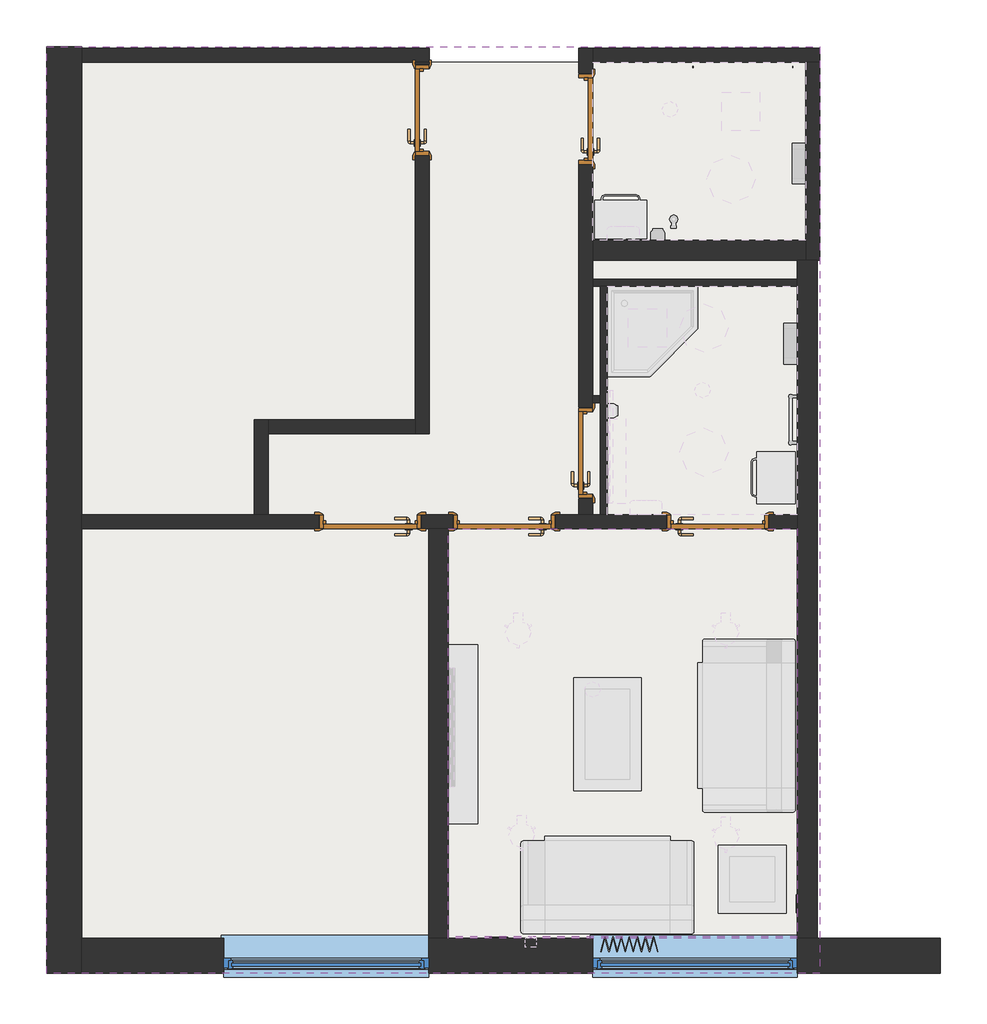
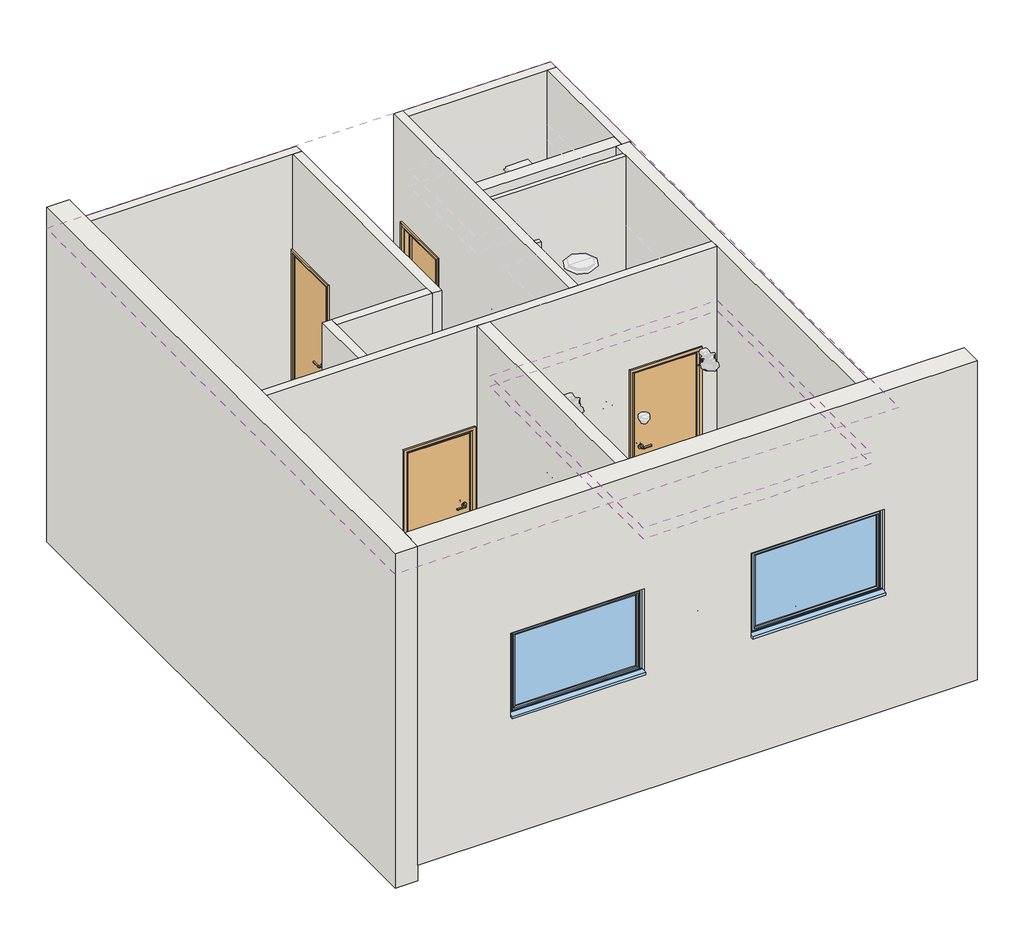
# One storey, part 1 of 2: 18 walls, 6 doors, 3 coverings, 3 slabs, 2 windows.
"""IFC4 building model written with IfcOpenShell, lengths in millimetres."""

from ifc_helpers import new_model, si_unit, frame, origin, origin_with_axes, place, context, project, spatial, polyline, circle_curve, outline, extrude, faceted_brep, transform, mapped, element, save
from ifc_brep_helpers import plane_surface, revolved_surface, advanced_brep
from components import doors_intsgl_810x2040mm_f9adfaf9, doors_intsgl_810x2110mm_60c2a13c, doors_intsgl_910x2040mm_be83dfe3, doors_intsgl_910x2110mm_76b165e6, windows_sgl_plain_1810x1210mm_b7899545

model = new_model("IFC4")

# Units and contexts
model_context = context("Model", 3, world=origin())
ifc_project = project(units=[si_unit("LENGTHUNIT", "METRE", prefix="MILLI")], contexts=[model_context])

# Site, building, storey
site = spatial("IfcSite", under=ifc_project)
building = spatial("IfcBuilding", under=site)
storey = spatial("IfcBuildingStorey", under=building, Name="2-Proposed Alterations Plan", Elevation=0.0)

# Coverings
placement = place(None, origin())
element("IfcCovering", 1, ObjectType="BH-Joisted P'board ceiling", at=placement, inside=storey, context=model_context, shape_type="SweptSolid", body=[
    extrude(outline(polyline([(9453.7880799, 12165.3737232), (9453.7880799, 3967.3736929), (2612.2880548, 3967.3736929), (2612.2880548, 12165.3737232), (9453.7880799, 12165.3737232)])), frame((0.0, 0.0, 3500.0), z_axis=(0.0, 0.0, 1.0), x_axis=(1.0, 0.0, 0.0)), (0.0, 0.0, 1.0), 212.0),
])
element("IfcCovering", 2, ObjectType="Asbestos Ceiling Tiles", at=placement, inside=storey, context=model_context, shape_type="SweptSolid", body=[
    extrude(outline(polyline([(9255.7880797, 10274.8737165), (9255.7880797, 8024.8737074), (7443.6565765, 8024.8737074), (7443.6565765, 10274.8737165), (9255.7880797, 10274.8737165)])), frame((0.0, 0.0, 2727.0), z_axis=(0.0, 0.0, 1.0), x_axis=(1.0, 0.0, 0.0)), (0.0, 0.0, 1.0), 57.0),
    extrude(outline(polyline([(9255.7880797, 7899.8737074), (9255.7880797, 4288.6237002), (6166.7880673, 4288.6237002), (6166.7880673, 7899.8737074), (9255.7880797, 7899.8737074)])), frame((0.0, 0.0, 2727.0), z_axis=(0.0, 0.0, 1.0), x_axis=(1.0, 0.0, 0.0)), (0.0, 0.0, 1.0), 57.0),
])
element("IfcCovering", 3, ObjectType="600x600mm_Grid", at=placement, inside=storey, context=model_context, shape_type="AdvancedBrep", body=[
    advanced_brep(
    [(9255.7880797, 7899.8737074, 2627.0), (6166.7880673, 7899.8737074, 2627.0), (6166.7880673, 4277.3736929, 2627.0), (9255.7880797, 4277.3736929, 2627.0), (6166.7880673, 7899.8737074, 2575.0), (9255.7880797, 7899.8737074, 2575.0), (9255.7880797, 4277.3736929, 2575.0), (6166.7880673, 4277.3736929, 2575.0), (6806.2919268, 7565.7199628, 2575.0), (6764.2919268, 7565.7199628, 2575.0), (7402.1417736, 5169.8134327, 2575.0), (7360.1417736, 5169.8134327, 2575.0), (6764.2919268, 7565.7199628, 2611.0), (6806.2919268, 7565.7199628, 2611.0), (7360.1417736, 5169.8134327, 2611.0), (7402.1417736, 5169.8134327, 2611.0)],
    [
        (0, 1),
        (1, 2),
        (2, 3),
        (3, 0),
        (4, 5),
        (5, 6),
        (6, 7),
        (7, 4),
        (8, 9, circle_curve(frame((6785.2919268, 7565.7199628, 2575.0), z_axis=(0.0, 0.0, 1.0), x_axis=(1.0, 0.0, 0.0)), 21.0)),
        (9, 8, circle_curve(frame((6785.2919268, 7565.7199628, 2575.0), z_axis=(0.0, 0.0, 1.0), x_axis=(1.0, 0.0, 0.0)), 21.0)),
        (10, 11, circle_curve(frame((7381.1417736, 5169.8134327, 2575.0), z_axis=(0.0, 0.0, 1.0), x_axis=(1.0, 0.0, 0.0)), 21.0)),
        (11, 10, circle_curve(frame((7381.1417736, 5169.8134327, 2575.0), z_axis=(0.0, 0.0, 1.0), x_axis=(1.0, 0.0, 0.0)), 21.0)),
        (0, 5),
        (4, 1),
        (7, 2),
        (6, 3),
        (12, 13, circle_curve(frame((6785.2919268, 7565.7199628, 2611.0), z_axis=(0.0, 0.0, -1.0), x_axis=(1.0, 0.0, 0.0)), 21.0)),
        (13, 12, circle_curve(frame((6785.2919268, 7565.7199628, 2611.0), z_axis=(0.0, 0.0, -1.0), x_axis=(1.0, 0.0, 0.0)), 21.0)),
        (12, 9),
        (8, 13),
        (14, 15, circle_curve(frame((7381.1417736, 5169.8134327, 2611.0), z_axis=(0.0, 0.0, -1.0), x_axis=(1.0, 0.0, 0.0)), 21.0)),
        (15, 14, circle_curve(frame((7381.1417736, 5169.8134327, 2611.0), z_axis=(0.0, 0.0, -1.0), x_axis=(1.0, 0.0, 0.0)), 21.0)),
        (14, 11),
        (10, 15),
    ],
    [
        plane_surface(frame((9343.2880797, 7899.8737074, 2627.0), z_axis=(0.0, 0.0, 1.0), x_axis=(-1.0, 0.0, 0.0))),
        plane_surface(frame((9343.2880797, 7899.8737074, 2575.0), z_axis=(0.0, 0.0, -1.0), x_axis=(1.0, 0.0, 0.0))),
        plane_surface(frame((9255.7880797, 7899.8737074, 2627.0), z_axis=(0.0, 1.0, 0.0), x_axis=(0.0, 0.0, -1.0))),
        plane_surface(frame((6166.7880673, 7899.8737074, 2627.0), z_axis=(-1.0, 0.0, 0.0), x_axis=(0.0, 0.0, -1.0))),
        plane_surface(frame((6166.7880673, 4277.3736929, 2627.0), z_axis=(0.0, -1.0, 0.0), x_axis=(0.0, 0.0, -1.0))),
        plane_surface(frame((9255.7880797, 4277.3736929, 2627.0), z_axis=(1.0, 0.0, 0.0), x_axis=(0.0, 0.0, -1.0))),
        plane_surface(frame((6806.2919268, 7565.7199628, 2611.0), z_axis=(0.0, 0.0, -1.0), x_axis=(0.0, 1.0, 0.0))),
        revolved_surface(polyline([(6806.2919268, 7565.7199628, 2575.0), (6806.2919268, 7565.7199628, 2611.0)]), (6785.2919268, 7565.7199628, 2611.0), (0.0, 0.0, -1.0)),
        plane_surface(frame((7402.1417736, 5169.8134327, 2611.0), z_axis=(0.0, 0.0, -1.0), x_axis=(0.0, 1.0, 0.0))),
        revolved_surface(polyline([(7402.1417736, 5169.8134327, 2575.0), (7402.1417736, 5169.8134327, 2611.0)]), (7381.1417736, 5169.8134327, 2611.0), (0.0, 0.0, -1.0)),
    ],
    [
        (0, [[1, 2, 3, 4]]),
        (1, [[5, 6, 7, 8], [9, 10], [11, 12]]),
        (2, [[-1, 13, -5, 14]]),
        (3, [[-2, -14, -8, 15]]),
        (4, [[-3, -15, -7, 16]]),
        (5, [[-4, -16, -6, -13]]),
        (6, [[17, 18]]),
        (7, [[-17, 19, -9, 20]]),
        (7, [[-18, -20, -10, -19]]),
        (8, [[21, 22]]),
        (9, [[-21, 23, -11, 24]]),
        (9, [[-22, -24, -12, -23]]),
    ],
),
])

# Doors
doors_intsgl_810x2040mm_shape = doors_intsgl_810x2040mm_f9adfaf9(model_context)
element("IfcDoor", 4, ObjectType="Doors_IntSgl : 810x2040mm", at=placement, inside=storey, context=model_context, shape_type="MappedRepresentation", body=[
    mapped(doors_intsgl_810x2040mm_shape, transform((7381.1565765, 11522.8737231, 0.0), x_axis=(0.0, 1.0, 0.0), y_axis=(-1.0, 0.0, 0.0), z_axis=(0.0, 0.0, 1.0))),
])
doors_intsgl_810x2110mm_shape = doors_intsgl_810x2110mm_60c2a13c(model_context)
element("IfcDoor", 5, ObjectType="Doors_IntSgl : 810x2110mm", at=placement, inside=storey, context=model_context, shape_type="MappedRepresentation", body=[
    mapped(doors_intsgl_810x2110mm_shape, transform((5935.3080668, 11602.8737231, 0.0), x_axis=(0.0, 1.0, 0.0), y_axis=(-1.0, 0.0, 0.0), z_axis=(0.0, 0.0, 1.0))),
])
element("IfcDoor", 6, ObjectType="Doors_IntSgl : 810x2110mm", at=placement, inside=storey, context=model_context, shape_type="MappedRepresentation", body=[
    mapped(doors_intsgl_810x2110mm_shape, transform((7381.1565765, 8569.8737074, 0.0), x_axis=(0.0, 1.0, 0.0), y_axis=(-1.0, 0.0, 0.0), z_axis=(0.0, 0.0, 1.0))),
])
doors_intsgl_910x2040mm_shape = doors_intsgl_910x2040mm_be83dfe3(model_context)
element("IfcDoor", 7, ObjectType="Doors_IntSgl : 910x2040mm", at=placement, inside=storey, context=model_context, shape_type="MappedRepresentation", body=[
    mapped(doors_intsgl_910x2040mm_shape, transform((6661.7880673, 7962.3737074, 0.0), x_axis=(-1.0, 0.0, 0.0), y_axis=(0.0, -1.0, 0.0), z_axis=(0.0, 0.0, 1.0))),
])
element("IfcDoor", 8, ObjectType="Doors_IntSgl : 910x2040mm", at=placement, inside=storey, context=model_context, shape_type="MappedRepresentation", body=[
    mapped(doors_intsgl_910x2040mm_shape, transform((5476.7880673, 7962.3737074, 0.0), x_axis=(-1.0, 0.0, 0.0), y_axis=(0.0, -1.0, 0.0), z_axis=(0.0, 0.0, 1.0))),
])
doors_intsgl_910x2110mm_shape = doors_intsgl_910x2110mm_76b165e6(model_context)
element("IfcDoor", 9, ObjectType="Doors_IntSgl : 910x2110mm", at=placement, inside=storey, context=model_context, shape_type="MappedRepresentation", body=[
    mapped(doors_intsgl_910x2110mm_shape, transform((8550.7880797, 7962.3737074, 0.0), x_axis=(1.0, 0.0, 0.0), y_axis=(0.0, 1.0, 0.0), z_axis=(0.0, 0.0, 1.0))),
])

# Slabs
element("IfcSlab", 10, ObjectType="BH Floorcovering 2mm vinyl", at=placement, inside=storey, context=model_context, shape_type="SweptSolid", body=[
    extrude(outline(polyline([(9341.2880799, 12027.8737231), (9341.2880799, 10362.3737165), (9268.2880797, 10362.3737165), (9268.2880797, 4264.8736929), (2909.7880548, 4264.8736929), (2909.7880548, 12027.8737231), (9341.2880799, 12027.8737231)])), frame((0.0, 0.0, -2.0), z_axis=(0.0, 0.0, 1.0), x_axis=(1.0, 0.0, 0.0)), (0.0, 0.0, 1.0), 2.0),
])
element("IfcSlab", 11, ObjectType="BH Lounge floor Washed Oak", at=placement, inside=storey, context=model_context, shape_type="SweptSolid", body=[
    extrude(outline(polyline([(6166.7880673, 7879.8737074), (6211.7880673, 7879.8737074), (6241.7880673, 7896.0275536), (6241.7880673, 7899.8737074), (6246.7880673, 7899.8737074), (6246.7880673, 7939.8737074), (7076.7880673, 7939.8737074), (7076.7880673, 7902.9530936), (7082.6891487, 7897.0520123), (7085.9663722, 7893.7747888), (7111.7880673, 7879.8737074), (7151.7880673, 7879.8737074), (7151.7880673, 7899.8737074), (8059.4216973, 7899.8737074), (8059.4216973, 7879.6248246), (8099.4216973, 7879.6248246), (8128.696425, 7895.3881395), (8130.7880797, 7899.8737074), (8135.7880797, 7899.8737074), (8135.7880797, 7939.8737074), (8965.7880797, 7939.8737074), (8965.7880797, 7899.8737074), (8970.7880797, 7899.8737074), (8971.689161, 7897.0520123), (8974.9663846, 7893.7747888), (9000.7880797, 7879.8737074), (9040.7880797, 7879.8737074), (9040.7880797, 7899.8737074), (9255.7880797, 7899.8737074), (9255.7880797, 4277.3736929), (6166.7880673, 4277.3736929), (6166.7880673, 7879.8737074)])), origin_with_axes(), (0.0, 0.0, 1.0), 2.0),
])
element("IfcSlab", 12, ObjectType="BH Lounge floor Washed Oak", at=placement, inside=storey, context=model_context, shape_type="SweptSolid", body=[
    extrude(outline(polyline([(8374.9065765, 9668.6237165), (8374.9065765, 10043.6237165), (9255.7880797, 10043.6237165), (9255.7880797, 8024.8737074), (9040.7880797, 8024.8737074), (9040.7880797, 8044.8737074), (9000.7880797, 8044.8737074), (8974.7880797, 8030.8737074), (8970.7880797, 8024.8737074), (8965.7880797, 8024.8737074), (8965.7880797, 7971.8737074), (8946.7880797, 7971.8737074), (8946.7880797, 7939.8737074), (8154.7880797, 7939.8737074), (8154.7880797, 7971.8737074), (8135.7880797, 7971.8737074), (8135.7880797, 8024.8737074), (8129.4962836, 8024.8737074), (8129.4962836, 8028.3458434), (8103.7880797, 8044.8737074), (8060.7880797, 8044.8737074), (8060.7880797, 8024.8737074), (7574.9065765, 8024.8737074), (7574.9065765, 9243.6237165), (7949.9065765, 9243.6237165), (8374.9065765, 9668.6237165)])), origin_with_axes(), (0.0, 0.0, 1.0), 2.0),
])

# Walls
element("IfcWall", 13, ObjectType="Wall-Ext_102Bwk-50Air-45Ins-100DBlk-12P", at=placement, inside=storey, context=model_context, shape_type="Brep", body=[
    faceted_brep([(2612.2880548, 12165.3737232, -1002.902152), (2612.2880548, 3967.3736929, -1002.902152), (2612.2880548, 3967.3736929, 3800.0), (2612.2880548, 12165.3737232, 3800.0), (2922.2880548, 12165.3737232, -1002.902152), (2922.2880548, 12165.3737232, 3800.0), (2922.2880548, 4277.3736929, 3800.0), (2922.2880548, 3967.3736929, 3800.0), (2922.2880548, 3967.3736929, -782.3640041), (2922.2880548, 3967.3736929, -1002.902152)], [[[0, 1, 2, 3]], [[4, 5, 6, 7, 8, 9]], [[1, 0, 4, 9]], [[3, 2, 7, 6, 5]], [[0, 3, 5, 4]], [[2, 1, 9, 8, 7]]]),
])
element("IfcWall", 14, ObjectType="Wall-Ext_102Bwk-50Air-45Ins-100DBlk-12P", at=placement, inside=storey, context=model_context, shape_type="SweptSolid", body=[
    extrude(outline(polyline([(-782.3640041, 2922.2880548), (-782.3640041, 10519.2880917), (3800.0, 10519.2880917), (3800.0, 2922.2880548), (-782.3640041, 2922.2880548)]), holes=[polyline([(2110.0, 5991.7880673), (900.0, 5991.7880673), (900.0, 4181.7880673), (2110.0, 4181.7880673), (2110.0, 5991.7880673)]), polyline([(2110.0, 9255.7880797), (900.0, 9255.7880797), (900.0, 7445.7880797), (2110.0, 7445.7880797), (2110.0, 9255.7880797)])]), frame((0.0, 3967.3736929, 0.0), z_axis=(0.0, 1.0, 0.0), x_axis=(0.0, 0.0, 1.0)), (0.0, 0.0, 1.0), 310.0),
])
element("IfcWall", 15, ObjectType="Basic Wall:Stericlad 2mm + trims", at=placement, inside=storey, context=model_context, shape_type="Brep", body=[
    faceted_brep([(7443.6565765, 10449.8737165, 100.0), (9328.7880799, 10449.8737165, 100.0), (9328.7880799, 10449.8737165, 1300.0), (7443.6565765, 10449.8737165, 1300.0), (7443.6565765, 10451.8737165, 100.0), (7443.6565765, 10451.8737165, 1300.0), (7445.6565765, 10451.8737165, 1300.0), (9328.7880799, 10451.8737165, 1300.0), (9328.7880799, 10451.8737165, 100.0), (7445.6565765, 10451.8737165, 100.0)], [[[0, 1, 2, 3]], [[4, 5, 6, 7, 8, 9]], [[1, 0, 4, 9, 8]], [[3, 2, 7, 6, 5]], [[0, 3, 5, 4]], [[2, 1, 8, 7]]]),
])
element("IfcWall", 16, ObjectType="Basic Wall:Stericlad 2mm + trims", at=placement, inside=storey, context=model_context, shape_type="SweptSolid", body=[
    extrude(outline(polyline([(7445.6565765, 11117.8737231), (7445.6565765, 10451.8737165), (7443.6565765, 10451.8737165), (7443.6565765, 11117.8737231), (7445.6565765, 11117.8737231)])), frame((0.0, 0.0, 100.0), z_axis=(0.0, 0.0, 1.0), x_axis=(1.0, 0.0, 0.0)), (0.0, 0.0, 1.0), 1200.0),
])
element("IfcWall", 17, ObjectType="IPS System 1200mm high", at=placement, inside=storey, context=model_context, shape_type="Brep", body=[
    faceted_brep([(7443.6565765, 10043.6237165, 0.0), (7512.4065765, 10043.6237165, 0.0), (7574.9065765, 10043.6237165, 0.0), (9255.7880797, 10043.6237165, 0.0), (9255.7880797, 10043.6237165, 3500.0), (7443.6565765, 10043.6237165, 3500.0), (7443.6565765, 10106.1237165, 0.0), (7443.6565765, 10106.1237165, 3500.0), (9255.7880797, 10106.1237165, 3500.0), (9255.7880797, 10106.1237165, 0.0)], [[[0, 1, 2, 3, 4, 5]], [[6, 7, 8, 9]], [[3, 2, 1, 0, 6, 9]], [[5, 4, 8, 7]], [[0, 5, 7, 6]], [[4, 3, 9, 8]]]),
])
element("IfcWall", 18, ObjectType="IPS System 1200mm high", at=placement, inside=storey, context=model_context, shape_type="Brep", body=[
    faceted_brep([(7574.9065765, 8024.8737074, 0.0), (7574.9065765, 10043.6237165, 0.0), (7574.9065765, 10043.6237165, 2500.0), (7574.9065765, 8024.8737074, 2500.0), (7512.4065765, 8024.8737074, 0.0), (7512.4065765, 8024.8737074, 2500.0), (7512.4065765, 10043.6237165, 2500.0), (7512.4065765, 10043.6237165, 0.0), (7512.4065765, 9076.6237106, 0.0), (7512.4065765, 9014.1237106, 0.0)], [[[0, 1, 2, 3]], [[4, 5, 6, 7, 8, 9]], [[1, 0, 4, 9, 8, 7]], [[3, 2, 6, 5]], [[2, 1, 7, 6]], [[0, 3, 5, 4]]]),
])
element("IfcWall", 19, ObjectType="IPS System 1200mm high", at=placement, inside=storey, context=model_context, shape_type="SweptSolid", body=[
    extrude(outline(polyline([(7512.4065765, 9014.1237106), (7443.6565765, 9014.1237106), (7443.6565765, 9076.6237106), (7512.4065765, 9076.6237106), (7512.4065765, 9014.1237106)])), origin_with_axes(), (0.0, 0.0, 1.0), 3500.0),
])
element("IfcWall", 20, ObjectType="Wall-Int_12P-100Blk-12P", at=placement, inside=storey, context=model_context, shape_type="Brep", body=[
    faceted_brep([(7443.6565765, 12152.8737231, 3500.0), (7443.6565765, 12027.8737231, 3500.0), (7443.6565765, 10449.8737165, 3500.0), (7443.6565765, 10274.8737165, 3500.0), (7443.6565765, 10106.1237165, 3500.0), (7443.6565765, 10043.6237165, 3500.0), (7443.6565765, 9076.6237106, 3500.0), (7443.6565765, 9014.1237106, 3500.0), (7443.6565765, 8024.8737074, 3500.0), (7443.6565765, 8024.8737074, 0.0), (7443.6565765, 8164.8737074, 0.0), (7443.6565765, 8164.8737074, 2110.0), (7443.6565765, 8974.8737074, 2110.0), (7443.6565765, 8974.8737074, 0.0), (7443.6565765, 9014.1237106, 0.0), (7443.6565765, 9076.6237106, 0.0), (7443.6565765, 10043.6237165, 0.0), (7443.6565765, 10106.1237165, 0.0), (7443.6565765, 10274.8737165, 0.0), (7443.6565765, 10449.8737165, 0.0), (7443.6565765, 11117.8737231, 0.0), (7443.6565765, 11117.8737231, 2040.0), (7443.6565765, 11927.8737231, 2040.0), (7443.6565765, 11927.8737231, 0.0), (7443.6565765, 12027.8737231, 0.0), (7443.6565765, 12152.8737231, 0.0), (7318.6565765, 8024.8737074, 3500.0), (7318.6565765, 12152.8737231, 3500.0), (7318.6565765, 12152.8737231, 0.0), (7318.6565765, 11927.8737231, 0.0), (7318.6565765, 11927.8737231, 2040.0), (7318.6565765, 11117.8737231, 2040.0), (7318.6565765, 11117.8737231, 0.0), (7318.6565765, 8974.8737074, 0.0), (7318.6565765, 8974.8737074, 2110.0), (7318.6565765, 8164.8737074, 2110.0), (7318.6565765, 8164.8737074, 0.0), (7318.6565765, 8024.8737074, 0.0)], [[[0, 1, 2, 3, 4, 5, 6, 7, 8, 9, 10, 11, 12, 13, 14, 15, 16, 17, 18, 19, 20, 21, 22, 23, 24, 25]], [[26, 27, 28, 29, 30, 31, 32, 33, 34, 35, 36, 37]], [[28, 25, 24, 23, 29]], [[9, 37, 36, 10]], [[32, 20, 19, 18, 17, 16, 15, 14, 13, 33]], [[8, 7, 6, 5, 4, 3, 2, 1, 0, 27, 26]], [[0, 25, 28, 27]], [[9, 8, 26, 37]], [[23, 22, 30, 29]], [[22, 21, 31, 30]], [[21, 20, 32, 31]], [[12, 34, 33, 13]], [[34, 12, 11, 35]], [[35, 11, 10, 36]]]),
])
element("IfcWall", 21, ObjectType="Wall-Int_12P-100Blk-12P", at=placement, inside=storey, context=model_context, shape_type="Brep", body=[
    faceted_brep([(7443.6565765, 12027.8737231, 0.0), (9328.7880799, 12027.8737231, 0.0), (9453.7880799, 12027.8737231, 0.0), (9453.7880799, 12027.8737231, 3500.0), (9328.7880799, 12027.8737231, 3500.0), (7443.6565765, 12027.8737231, 3500.0), (7443.6565765, 12152.8737231, 0.0), (7443.6565765, 12152.8737231, 3500.0), (9453.7880799, 12152.8737231, 3500.0), (9453.7880799, 12152.8737231, 0.0)], [[[0, 1, 2, 3, 4, 5]], [[6, 7, 8, 9]], [[2, 1, 0, 6, 9]], [[5, 4, 3, 8, 7]], [[0, 5, 7, 6]], [[3, 2, 9, 8]]]),
])
element("IfcWall", 22, ObjectType="Wall-Int_12P-100Blk-12P", at=placement, inside=storey, context=model_context, shape_type="Brep", body=[
    faceted_brep([(9328.7880799, 12027.8737231, 0.0), (9328.7880799, 10449.8737165, 0.0), (9328.7880799, 10274.8737165, 0.0), (9328.7880799, 10274.8737165, 3500.0), (9328.7880799, 10449.8737165, 3500.0), (9328.7880799, 12027.8737231, 3500.0), (9453.7880799, 12027.8737231, 0.0), (9453.7880799, 12027.8737231, 3500.0), (9453.7880799, 10274.8737165, 3500.0), (9453.7880799, 10274.8737165, 0.0), (9430.7880797, 10274.8737165, 0.0), (9430.7880797, 10274.8737165, 3500.0)], [[[0, 1, 2, 3, 4, 5]], [[6, 7, 8, 9]], [[2, 1, 0, 6, 9, 10]], [[5, 4, 3, 11, 8, 7]], [[0, 5, 7, 6]], [[3, 2, 10, 9, 8, 11]]]),
])
element("IfcWall", 23, ObjectType="Wall-Int_12P-100Blk-12P", at=placement, inside=storey, context=model_context, shape_type="Brep", body=[
    faceted_brep([(2922.2880548, 8024.8737074, 3500.0), (4450.7880614, 8024.8737074, 3500.0), (4575.7880614, 8024.8737074, 3500.0), (7318.6565765, 8024.8737074, 3500.0), (7443.6565765, 8024.8737074, 3500.0), (9255.7880797, 8024.8737074, 3500.0), (9255.7880797, 8024.8737074, 0.0), (9005.7880797, 8024.8737074, 0.0), (9005.7880797, 8024.8737074, 2110.0), (8095.7880797, 8024.8737074, 2110.0), (8095.7880797, 8024.8737074, 0.0), (7574.9065765, 8024.8737074, 0.0), (7512.4065765, 8024.8737074, 0.0), (7443.6565765, 8024.8737074, 0.0), (7318.6565765, 8024.8737074, 0.0), (7116.7880673, 8024.8737074, 0.0), (7116.7880673, 8024.8737074, 2040.0), (6206.7880673, 8024.8737074, 2040.0), (6206.7880673, 8024.8737074, 0.0), (5931.7880673, 8024.8737074, 0.0), (5931.7880673, 8024.8737074, 2040.0), (5021.7880673, 8024.8737074, 2040.0), (5021.7880673, 8024.8737074, 0.0), (4575.7880614, 8024.8737074, 0.0), (4450.7880614, 8024.8737074, 0.0), (2922.2880548, 8024.8737074, 0.0), (9255.7880797, 7899.8737074, 3500.0), (6166.7880673, 7899.8737074, 3500.0), (5991.7880673, 7899.8737074, 3500.0), (2922.2880548, 7899.8737074, 3500.0), (2922.2880548, 7899.8737074, 0.0), (5021.7880673, 7899.8737074, 0.0), (5021.7880673, 7899.8737074, 2040.0), (5931.7880673, 7899.8737074, 2040.0), (5931.7880673, 7899.8737074, 0.0), (5991.7880673, 7899.8737074, 0.0), (6166.7880673, 7899.8737074, 0.0), (6206.7880673, 7899.8737074, 0.0), (6206.7880673, 7899.8737074, 2040.0), (7116.7880673, 7899.8737074, 2040.0), (7116.7880673, 7899.8737074, 0.0), (8095.7880797, 7899.8737074, 0.0), (8095.7880797, 7899.8737074, 2110.0), (9005.7880797, 7899.8737074, 2110.0), (9005.7880797, 7899.8737074, 0.0), (9255.7880797, 7899.8737074, 0.0)], [[[0, 1, 2, 3, 4, 5, 6, 7, 8, 9, 10, 11, 12, 13, 14, 15, 16, 17, 18, 19, 20, 21, 22, 23, 24, 25]], [[26, 27, 28, 29, 30, 31, 32, 33, 34, 35, 36, 37, 38, 39, 40, 41, 42, 43, 44, 45]], [[30, 25, 24, 23, 22, 31]], [[6, 45, 44, 7]], [[18, 37, 36, 35, 34, 19]], [[40, 15, 14, 13, 12, 11, 10, 41]], [[5, 4, 3, 2, 1, 0, 29, 28, 27, 26]], [[0, 25, 30, 29]], [[6, 5, 26, 45]], [[17, 38, 37, 18]], [[38, 17, 16, 39]], [[39, 16, 15, 40]], [[21, 32, 31, 22]], [[32, 21, 20, 33]], [[33, 20, 19, 34]], [[43, 8, 7, 44]], [[8, 43, 42, 9]], [[9, 42, 41, 10]]]),
])
element("IfcWall", 24, ObjectType="Wall-Int_12P-100Blk-12P", at=placement, inside=storey, context=model_context, shape_type="Brep", body=[
    faceted_brep([(2922.2880548, 12027.8737231, 0.0), (5872.8080668, 12027.8737231, 0.0), (5997.8080668, 12027.8737231, 0.0), (5997.8080668, 12027.8737231, 3500.0), (5872.8080668, 12027.8737231, 3500.0), (2922.2880548, 12027.8737231, 3500.0), (2922.2880548, 12152.8737231, 0.0), (2922.2880548, 12152.8737231, 3500.0), (5997.8080668, 12152.8737231, 3500.0), (5997.8080668, 12152.8737231, 0.0)], [[[0, 1, 2, 3, 4, 5]], [[6, 7, 8, 9]], [[2, 1, 0, 6, 9]], [[5, 4, 3, 8, 7]], [[0, 5, 7, 6]], [[3, 2, 9, 8]]]),
])
element("IfcWall", 25, ObjectType="Wall-Int_12P-100Blk-12P", at=placement, inside=storey, context=model_context, shape_type="Brep", body=[
    faceted_brep([(5997.8080668, 12027.8737231, 3500.0), (5997.8080668, 8740.3737106, 3500.0), (5997.8080668, 8740.3737106, 0.0), (5997.8080668, 11197.8737231, 0.0), (5997.8080668, 11197.8737231, 2110.0), (5997.8080668, 12007.8737231, 2110.0), (5997.8080668, 12007.8737231, 0.0), (5997.8080668, 12027.8737231, 0.0), (5872.8080668, 8740.3737106, 3500.0), (5872.8080668, 8865.3737106, 3500.0), (5872.8080668, 12027.8737231, 3500.0), (5872.8080668, 12027.8737231, 0.0), (5872.8080668, 12007.8737231, 0.0), (5872.8080668, 12007.8737231, 2110.0), (5872.8080668, 11197.8737231, 2110.0), (5872.8080668, 11197.8737231, 0.0), (5872.8080668, 8865.3737106, 0.0), (5872.8080668, 8740.3737106, 0.0)], [[[0, 1, 2, 3, 4, 5, 6, 7]], [[8, 9, 10, 11, 12, 13, 14, 15, 16, 17]], [[11, 7, 6, 12]], [[2, 17, 16, 15, 3]], [[1, 0, 10, 9, 8]], [[0, 7, 11, 10]], [[2, 1, 8, 17]], [[5, 13, 12, 6]], [[13, 5, 4, 14]], [[14, 4, 3, 15]]]),
])
element("IfcWall", 26, ObjectType="Wall-Int_12P-100Blk-12P", at=placement, inside=storey, context=model_context, shape_type="Brep", body=[
    faceted_brep([(4575.7880614, 8024.8737074, 0.0), (4575.7880614, 8740.3737106, 0.0), (4575.7880614, 8865.3737106, 0.0), (4575.7880614, 8865.3737106, 3500.0), (4575.7880614, 8740.3737106, 3500.0), (4575.7880614, 8024.8737074, 3500.0), (4450.7880614, 8024.8737074, 0.0), (4450.7880614, 8024.8737074, 3500.0), (4450.7880614, 8865.3737106, 3500.0), (4450.7880614, 8865.3737106, 0.0)], [[[0, 1, 2, 3, 4, 5]], [[6, 7, 8, 9]], [[2, 1, 0, 6, 9]], [[5, 4, 3, 8, 7]], [[0, 5, 7, 6]], [[3, 2, 9, 8]]]),
])
element("IfcWall", 27, ObjectType="Wall-Int_12P-100Blk-12P", at=placement, inside=storey, context=model_context, shape_type="SweptSolid", body=[
    extrude(outline(polyline([(5872.8080668, 8740.3737106), (4575.7880614, 8740.3737106), (4575.7880614, 8865.3737106), (5872.8080668, 8865.3737106), (5872.8080668, 8740.3737106)])), origin_with_axes(), (0.0, 0.0, 1.0), 3500.0),
])
element("IfcWall", 28, ObjectType="Wall-Int_12P-150Blk-12P 2", at=placement, inside=storey, context=model_context, shape_type="Brep", body=[
    faceted_brep([(7443.6565765, 10274.8737165, 0.0), (9255.7880797, 10274.8737165, 0.0), (9328.7880799, 10274.8737165, 0.0), (9328.7880799, 10274.8737165, 3500.0), (9255.7880797, 10274.8737165, 3500.0), (7443.6565765, 10274.8737165, 3500.0), (7443.6565765, 10449.8737165, 0.0), (7443.6565765, 10449.8737165, 3500.0), (9328.7880799, 10449.8737165, 3500.0), (9328.7880799, 10449.8737165, 0.0)], [[[0, 1, 2, 3, 4, 5]], [[6, 7, 8, 9]], [[2, 1, 0, 6, 9]], [[5, 4, 3, 8, 7]], [[3, 2, 9, 8]], [[0, 5, 7, 6]]]),
])
element("IfcWall", 29, ObjectType="Wall-Int_12P-150Blk-12P 2", at=placement, inside=storey, context=model_context, shape_type="Brep", body=[
    faceted_brep([(6166.7880673, 4277.3736929, 0.0), (6166.7880673, 7899.8737074, 0.0), (6166.7880673, 7899.8737074, 3500.0), (6166.7880673, 4277.3736929, 3500.0), (5991.7880673, 4277.3736929, 0.0), (5991.7880673, 4277.3736929, 900.0), (5991.7880673, 4277.3736929, 2110.0), (5991.7880673, 4277.3736929, 3500.0), (5991.7880673, 7899.8737074, 3500.0), (5991.7880673, 7899.8737074, 0.0)], [[[0, 1, 2, 3]], [[4, 5, 6, 7, 8, 9]], [[1, 0, 4, 9]], [[3, 2, 8, 7]], [[2, 1, 9, 8]], [[0, 3, 7, 6, 5, 4]]]),
])
element("IfcWall", 30, ObjectType="Wall-Int_12P-150Blk-12P 2", at=placement, inside=storey, context=model_context, shape_type="Brep", body=[
    faceted_brep([(9430.7880797, 4277.3736929, 0.0), (9430.7880797, 10274.8737165, 0.0), (9430.7880797, 10274.8737165, 3500.0), (9430.7880797, 4277.3736929, 3500.0), (9255.7880797, 4277.3736929, 0.0), (9255.7880797, 4277.3736929, 900.0), (9255.7880797, 4277.3736929, 2110.0), (9255.7880797, 4277.3736929, 3500.0), (9255.7880797, 7899.8737074, 3500.0), (9255.7880797, 8024.8737074, 3500.0), (9255.7880797, 10043.6237165, 3500.0), (9255.7880797, 10106.1237165, 3500.0), (9255.7880797, 10274.8737165, 3500.0), (9255.7880797, 10274.8737165, 0.0), (9255.7880797, 10106.1237165, 0.0), (9255.7880797, 10043.6237165, 0.0), (9255.7880797, 8024.8737074, 0.0), (9255.7880797, 7899.8737074, 0.0), (9328.7880799, 10274.8737165, 0.0), (9328.7880799, 10274.8737165, 3500.0)], [[[0, 1, 2, 3]], [[4, 5, 6, 7, 8, 9, 10, 11, 12, 13, 14, 15, 16, 17]], [[1, 0, 4, 17, 16, 15, 14, 13, 18]], [[3, 2, 19, 12, 11, 10, 9, 8, 7]], [[0, 3, 7, 6, 5, 4]], [[1, 18, 13, 12, 19, 2]]]),
])

# Windows
windows_sgl_plain_1810x1210mm_shape = windows_sgl_plain_1810x1210mm_b7899545(model_context)
element("IfcWindow", 31, ObjectType="Windows_Sgl_Plain : 1810x1210mm", at=placement, inside=storey, context=model_context, shape_type="MappedRepresentation", body=[
    mapped(windows_sgl_plain_1810x1210mm_shape, transform((5086.7880673, 4130.8302607, 0.0), x_axis=(-1.0, 0.0, 0.0), y_axis=(0.0, -1.0, 0.0), z_axis=(0.0, 0.0, 1.0))),
])
element("IfcWindow", 32, ObjectType="Windows_Sgl_Plain : 1810x1210mm", at=placement, inside=storey, context=model_context, shape_type="MappedRepresentation", body=[
    mapped(windows_sgl_plain_1810x1210mm_shape, transform((8350.7880797, 4130.8302607, 0.0), x_axis=(-1.0, 0.0, 0.0), y_axis=(0.0, -1.0, 0.0), z_axis=(0.0, 0.0, 1.0))),
])

save(model, "model.ifc")
